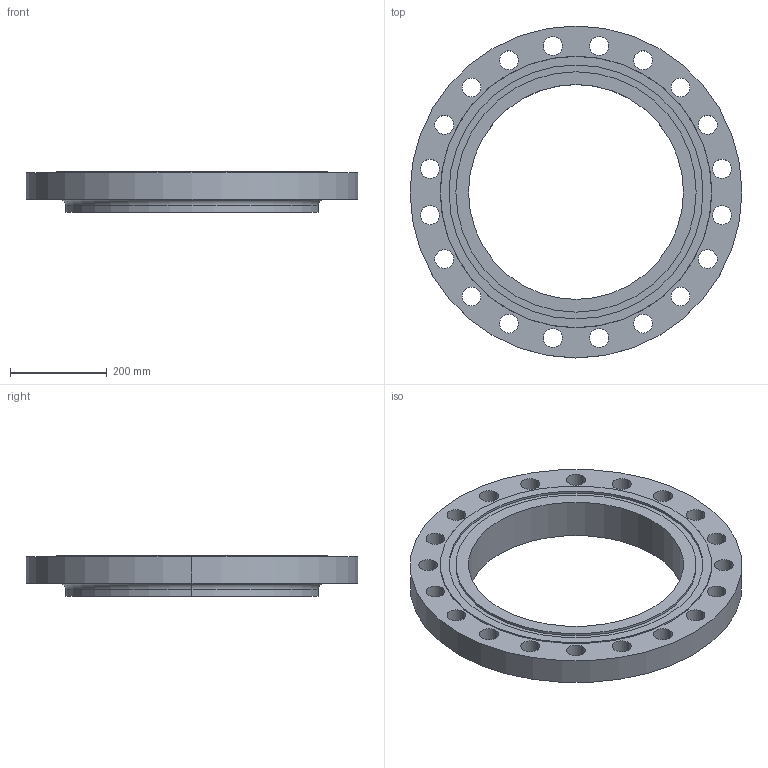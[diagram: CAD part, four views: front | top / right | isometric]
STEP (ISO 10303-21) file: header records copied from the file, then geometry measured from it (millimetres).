
FILE_DESCRIPTION (( 'STEP AP214' ), '1' );
FILE_NAME ('PN40 DN450 Type 13 - Type D Face.STEP', '2018-12-29T02:31:02', ( '' ), ( '' ), 'SwSTEP 2.0', 'SolidWorks 2019', '' );
FILE_SCHEMA (( 'AUTOMOTIVE_DESIGN' ));
Length unit declared in the file: millimetre
Products named in the file (1): PN40 DN450 Type 13 - Type D Face
Bounding box: 685 x 685 x 84 mm (x, y, z)
Volume: 12188750.5 mm3; surface area: 805346.7 mm2
Topology: 1 solids, 1 shells, 60 faces, 160 edges, 106 vertices
Faces by surface type: cylinder 50, plane 6, torus 2, cone 2
Entity records: 2054 total; most frequent: DIRECTION 390, CARTESIAN_POINT 327, ORIENTED_EDGE 320, AXIS2_PLACEMENT_3D 169, EDGE_CURVE 160, CIRCLE 108, VERTEX_POINT 106, EDGE_LOOP 106
